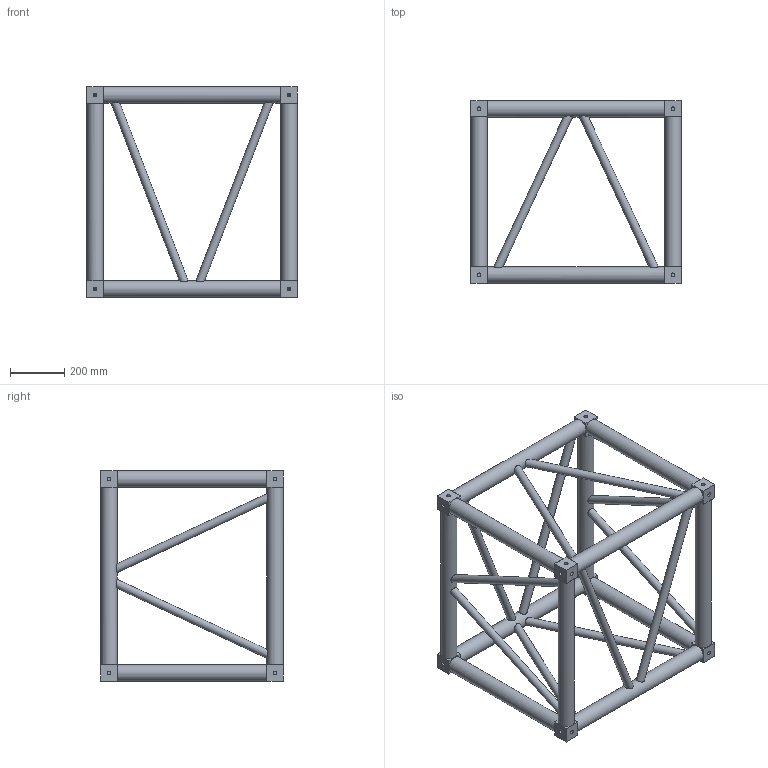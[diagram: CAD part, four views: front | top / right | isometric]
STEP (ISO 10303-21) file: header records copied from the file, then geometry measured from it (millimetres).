
FILE_DESCRIPTION(/* description */ (''),/* implementation_level */ '2;1');
FILE_NAME(/* name */ 'M:\Symbolen_NIEUW\STP\Boxcorner\111130034.stp',/* time_stamp */ '2015-05-19T14:02:17+02:00',/* author */ ('Stephan'),/* organization */ (''),/* preprocessor_version */ 'ST-DEVELOPER v15.6',/* originating_system */ 'Autodesk Inventor 2015',/* authorisation */ '');
FILE_SCHEMA (('AUTOMOTIVE_DESIGN { 1 0 10303 214 3 1 1 }'));
Length unit declared in the file: millimetre
Products named in the file (1): 160024218
Bounding box: 772 x 670 x 772 mm (x, y, z)
Volume: 27960410.1 mm3; surface area: 2295045.6 mm2
Topology: 2 solids, 2 shells, 432 faces, 1185 edges, 751 vertices
Faces by surface type: plane 264, cylinder 168
Full cylindrical faces by diameter (mm): 13.835 x48, 30 x12, 60 x12
Entity records: 14296 total; most frequent: CARTESIAN_POINT 3013, DIRECTION 2376, ORIENTED_EDGE 2092, EDGE_CURVE 1046, AXIS2_PLACEMENT_3D 921, VERTEX_POINT 686, EDGE_LOOP 568, LINE 534
